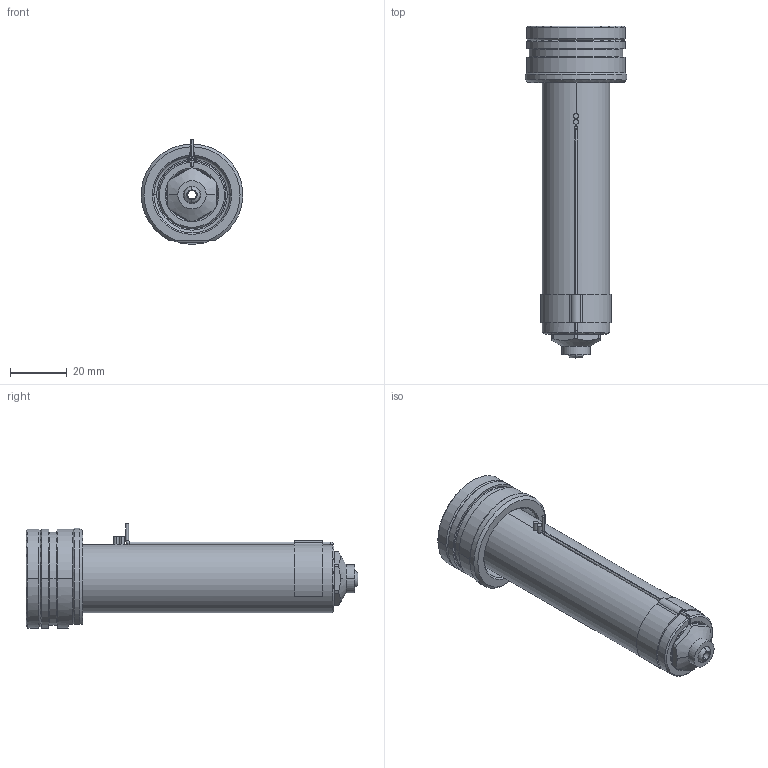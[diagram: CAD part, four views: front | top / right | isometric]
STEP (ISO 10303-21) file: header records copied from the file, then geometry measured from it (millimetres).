
FILE_DESCRIPTION((''),'2;1');
FILE_NAME('EO06_VG-BL_WR_100_SW','2024-02-19T13:03:31',('sundharh'),(''),'CREO PARAMETRIC BY PTC INC, 2023154','CREO PARAMETRIC BY PTC INC, 2023154','');
FILE_SCHEMA(('CONFIG_CONTROL_DESIGN'));
Length unit declared in the file: millimetre
Products named in the file (1): EO06_VG-BL_WR_100_SW
Bounding box: 35.93 x 117.5 x 37 mm (x, y, z)
Volume: 55647.2 mm3; surface area: 16683.5 mm2
Topology: 2 solids, 2 shells, 198 faces, 493 edges, 295 vertices
Faces by surface type: cylinder 76, plane 41, cone 36, torus 27, bspline 16, sphere 2
Entity records: 6813 total; most frequent: CARTESIAN_POINT 2059, DIRECTION 1056, ORIENTED_EDGE 970, EDGE_CURVE 485, AXIS2_PLACEMENT_3D 445, VERTEX_POINT 295, CIRCLE 263, EDGE_LOOP 212
